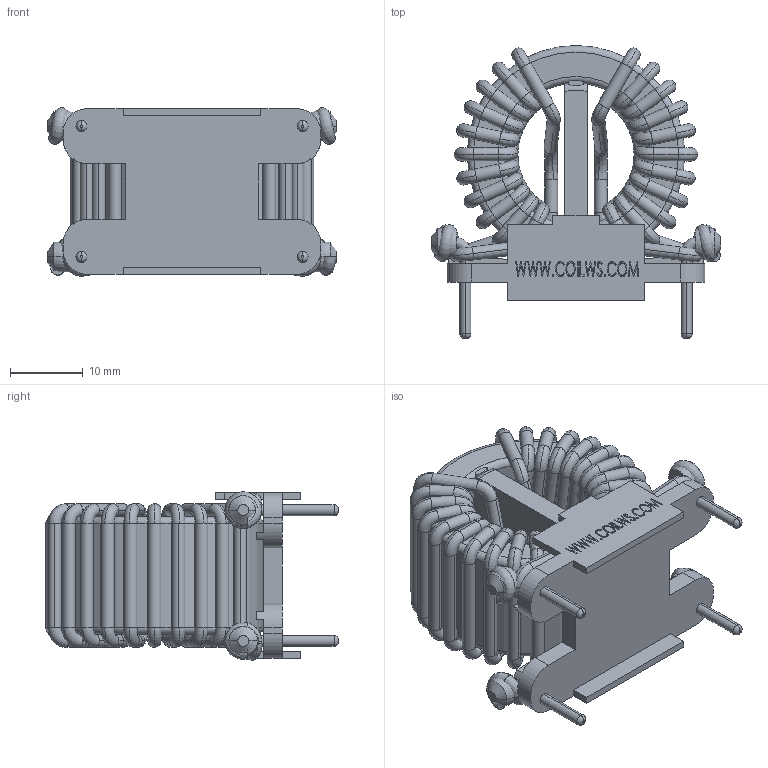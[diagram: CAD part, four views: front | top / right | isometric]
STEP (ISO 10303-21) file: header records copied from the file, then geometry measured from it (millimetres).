
FILE_DESCRIPTION (( 'STEP AP203' ), '1' );
FILE_NAME ('PM-25-102U-20A.STEP', '2021-02-03T08:49:50', ( '' ), ( '' ), 'SwSTEP 2.0', 'SolidWorks 2015', '' );
FILE_SCHEMA (( 'CONFIG_CONTROL_DESIGN' ));
Length unit declared in the file: millimetre
Products named in the file (6): WINDING; CORE; SPACER; PM-25-102U-20A; EPOXY; BASE
Assembly tree (5 placements, depth 2):
  PM-25-102U-20A
    BASE
    CORE
    SPACER
    WINDING
    EPOXY
Bounding box: 39.94 x 40.35 x 23.22 mm (x, y, z)
Volume: 12491.4 mm3; surface area: 13276.5 mm2
Topology: 14 solids, 14 shells, 764 faces, 2068 edges, 1348 vertices
Faces by surface type: cylinder 282, torus 216, plane 179, bspline 79, cone 8
Entity records: 32050 total; most frequent: CARTESIAN_POINT 11743, DIRECTION 4408, ORIENTED_EDGE 4136, EDGE_CURVE 2068, AXIS2_PLACEMENT_3D 1835, VERTEX_POINT 1348, CIRCLE 1142, EDGE_LOOP 794
